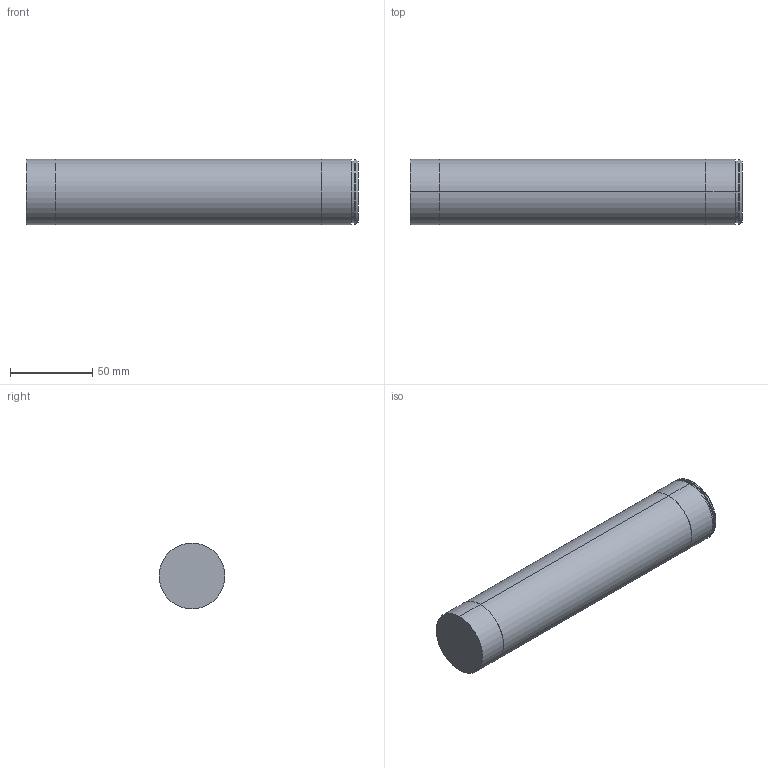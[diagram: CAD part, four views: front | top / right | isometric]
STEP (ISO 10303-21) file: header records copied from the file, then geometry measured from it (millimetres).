
FILE_DESCRIPTION (( 'STEP AP203' ), '1' );
FILE_NAME ('S7-40.STEP', '2002-08-16T10:51:42', ( '.' ), ( '.' ), 'SwSTEP 2.0', 'SolidWorks 2001340', '' );
FILE_SCHEMA (( 'CONFIG_CONTROL_DESIGN' ));
Length unit declared in the file: millimetre
Products named in the file (1): S7-40
Bounding box: 202 x 40 x 40 mm (x, y, z)
Volume: 251432.4 mm3; surface area: 28016.4 mm2
Topology: 1 solids, 1 shells, 18 faces, 34 edges, 22 vertices
Faces by surface type: cylinder 10, plane 6, cone 2
Entity records: 541 total; most frequent: DIRECTION 94, CARTESIAN_POINT 75, ORIENTED_EDGE 68, AXIS2_PLACEMENT_3D 41, EDGE_CURVE 34, EDGE_LOOP 22, VERTEX_POINT 22, CIRCLE 22
